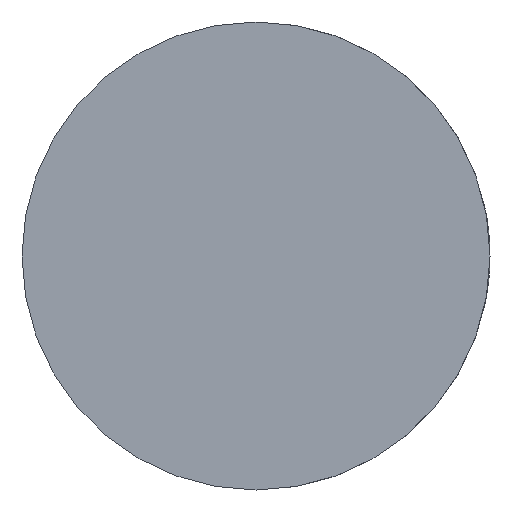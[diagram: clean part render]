
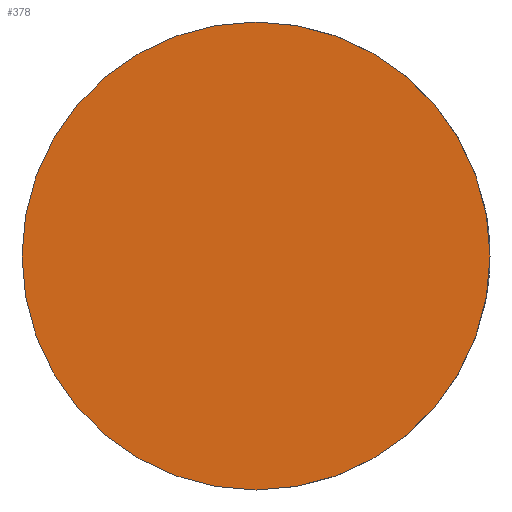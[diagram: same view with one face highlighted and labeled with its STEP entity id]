
A CAD part, front view. The second image highlights one B-rep face of the part: STEP entity #378.
In plain terms, the highlighted planar face has unit normal (0, -1, 0).
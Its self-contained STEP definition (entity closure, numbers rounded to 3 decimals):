
#45 = DIRECTION ( 'NONE',  ( 0., -1., 0. ) ) ;
#54 = ORIENTED_EDGE ( 'NONE', *, *, #271, .T. ) ;
#143 = CARTESIAN_POINT ( 'NONE',  ( 0., 0., -17.5 ) ) ;
#271 = EDGE_CURVE ( 'NONE', #1624, #1570, #2251, .T. ) ;
#378 = ADVANCED_FACE ( 'NONE', ( #767 ), #991, .T. ) ;
#572 = CARTESIAN_POINT ( 'NONE',  ( 0., 0., 0. ) ) ;
#594 = DIRECTION ( 'NONE',  ( 0., 0., -1. ) ) ;
#628 = EDGE_CURVE ( 'NONE', #1570, #1624, #1690, .T. ) ;
#736 = DIRECTION ( 'NONE',  ( 0., -1., 0. ) ) ;
#767 = FACE_OUTER_BOUND ( 'NONE', #1352, .T. ) ;
#782 = ORIENTED_EDGE ( 'NONE', *, *, #628, .T. ) ;
#888 = DIRECTION ( 'NONE',  ( 0., 0., -1. ) ) ;
#899 = CARTESIAN_POINT ( 'NONE',  ( 0., 0., 0. ) ) ;
#991 = PLANE ( 'NONE',  #1110 ) ;
#998 = AXIS2_PLACEMENT_3D ( 'NONE', #1668, #736, #888 ) ;
#1110 = AXIS2_PLACEMENT_3D ( 'NONE', #572, #2271, #594 ) ;
#1312 = CARTESIAN_POINT ( 'NONE',  ( 0., 0., 17.5 ) ) ;
#1352 = EDGE_LOOP ( 'NONE', ( #782, #54 ) ) ;
#1570 = VERTEX_POINT ( 'NONE', #1312 ) ;
#1582 = AXIS2_PLACEMENT_3D ( 'NONE', #899, #45, #2228 ) ;
#1624 = VERTEX_POINT ( 'NONE', #143 ) ;
#1668 = CARTESIAN_POINT ( 'NONE',  ( 0., 0., 0. ) ) ;
#1690 = CIRCLE ( 'NONE', #1582, 17.5 ) ;
#2228 = DIRECTION ( 'NONE',  ( 0., 0., -1. ) ) ;
#2251 = CIRCLE ( 'NONE', #998, 17.5 ) ;
#2271 = DIRECTION ( 'NONE',  ( 0., -1., 0. ) ) ;
